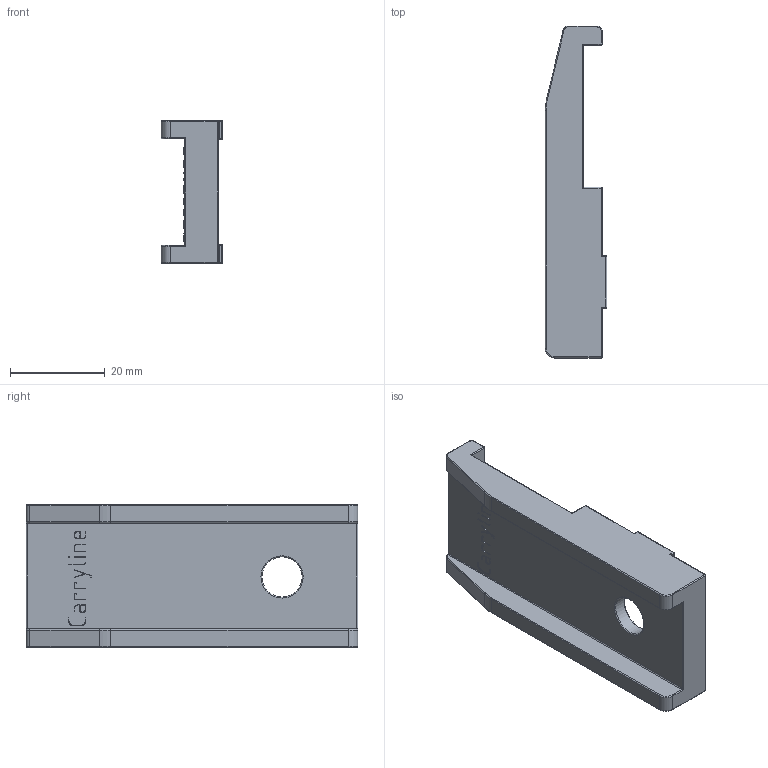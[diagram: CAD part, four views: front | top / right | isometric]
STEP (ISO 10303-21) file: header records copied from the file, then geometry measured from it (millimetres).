
FILE_DESCRIPTION((''),'2;1');
FILE_NAME('C:\Vault Klient\Projekt\Step\300-1050.stp','2009-12-04T10:30:17',('Mathias'),(''),'Autodesk Inventor 2010','Autodesk Inventor 2010','');
FILE_SCHEMA(('CONFIG_CONTROL_DESIGN'));
Length unit declared in the file: millimetre
Products named in the file (1): 300-1050
Bounding box: 13 x 70 x 30 mm (x, y, z)
Volume: 10957.7 mm3; surface area: 7227.6 mm2
Topology: 1 solids, 1 shells, 282 faces, 699 edges, 401 vertices
Faces by surface type: plane 114, cylinder 78, bspline 56, torus 20, sphere 14
Entity records: 8611 total; most frequent: CARTESIAN_POINT 2311, ORIENTED_EDGE 1330, DIRECTION 1231, EDGE_CURVE 665, VECTOR 413, LINE 413, AXIS2_PLACEMENT_3D 409, VERTEX_POINT 400
